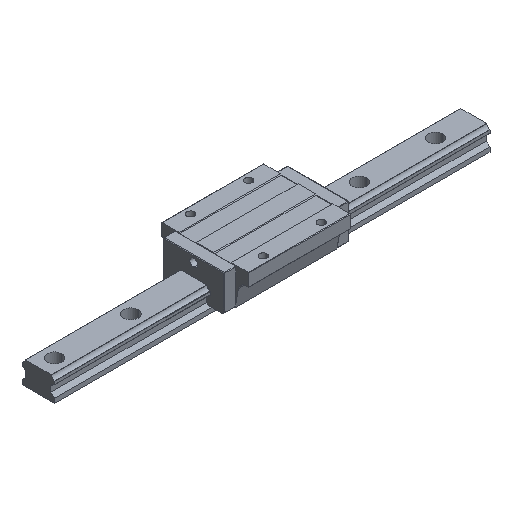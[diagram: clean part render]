
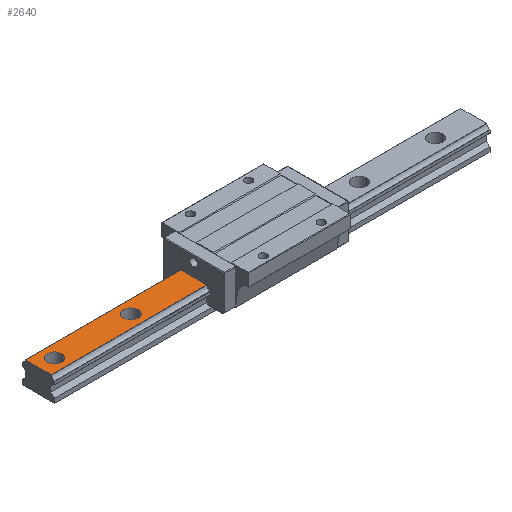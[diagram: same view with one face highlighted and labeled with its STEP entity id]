
A CAD part, isometric view. The second image highlights one B-rep face of the part: STEP entity #2640.
In plain terms, the highlighted planar face has unit normal (0, 0, 1).
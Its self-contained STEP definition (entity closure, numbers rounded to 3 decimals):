
#125 = EDGE_CURVE ( 'NONE', #1370, #3330, #2268, .T. ) ;
#241 = VECTOR ( 'NONE', #3045, 1000. ) ;
#251 = CARTESIAN_POINT ( 'NONE',  ( 300., -17.738, 32. ) ) ;
#325 = CARTESIAN_POINT ( 'NONE',  ( -172.5, 0., 32. ) ) ;
#520 = DIRECTION ( 'NONE',  ( -1., 0., 0. ) ) ;
#795 = VECTOR ( 'NONE', #1191, 1000. ) ;
#970 = CARTESIAN_POINT ( 'NONE',  ( -172.5, 0., 32. ) ) ;
#1160 = LINE ( 'NONE', #3654, #795 ) ;
#1191 = DIRECTION ( 'NONE',  ( 0., -1., 0. ) ) ;
#1192 = DIRECTION ( 'NONE',  ( 1., 0., 0. ) ) ;
#1370 = VERTEX_POINT ( 'NONE', #2221 ) ;
#1421 = EDGE_CURVE ( 'NONE', #4458, #2438, #1160, .T. ) ;
#1479 = VECTOR ( 'NONE', #1192, 1000. ) ;
#1514 = CARTESIAN_POINT ( 'NONE',  ( -162.5, 0., 32. ) ) ;
#1519 = CARTESIAN_POINT ( 'NONE',  ( -277.5, 0., 32. ) ) ;
#1611 = CARTESIAN_POINT ( 'NONE',  ( -287.5, 0., 32. ) ) ;
#1665 = EDGE_CURVE ( 'NONE', #3925, #4458, #5146, .T. ) ;
#1903 = VERTEX_POINT ( 'NONE', #1611 ) ;
#1919 = EDGE_LOOP ( 'NONE', ( #5201, #5696, #5321, #6178 ) ) ;
#2173 = DIRECTION ( 'NONE',  ( -1., 0., 0. ) ) ;
#2221 = CARTESIAN_POINT ( 'NONE',  ( -182.5, 0., 32. ) ) ;
#2235 = FACE_OUTER_BOUND ( 'NONE', #1919, .T. ) ;
#2268 = CIRCLE ( 'NONE', #5891, 10. ) ;
#2309 = ORIENTED_EDGE ( 'NONE', *, *, #125, .T. ) ;
#2328 = CARTESIAN_POINT ( 'NONE',  ( 300., 0., 32. ) ) ;
#2358 = AXIS2_PLACEMENT_3D ( 'NONE', #325, #4277, #5761 ) ;
#2438 = VERTEX_POINT ( 'NONE', #5504 ) ;
#2639 = DIRECTION ( 'NONE',  ( 0., 0., -1. ) ) ;
#2640 = ADVANCED_FACE ( 'NONE', ( #3344, #6184, #2235 ), #4695, .F. ) ;
#2676 = LINE ( 'NONE', #251, #1479 ) ;
#2740 = EDGE_CURVE ( 'NONE', #3330, #1370, #4019, .T. ) ;
#2752 = DIRECTION ( 'NONE',  ( 0., -1., 0. ) ) ;
#2983 = AXIS2_PLACEMENT_3D ( 'NONE', #2328, #4304, #2752 ) ;
#3045 = DIRECTION ( 'NONE',  ( 0., -1., 0. ) ) ;
#3330 = VERTEX_POINT ( 'NONE', #1514 ) ;
#3344 = FACE_BOUND ( 'NONE', #6193, .T. ) ;
#3406 = EDGE_CURVE ( 'NONE', #1903, #6332, #4704, .T. ) ;
#3489 = DIRECTION ( 'NONE',  ( -1., 0., 0. ) ) ;
#3515 = AXIS2_PLACEMENT_3D ( 'NONE', #1519, #4589, #520 ) ;
#3654 = CARTESIAN_POINT ( 'NONE',  ( -300., 0., 32. ) ) ;
#3899 = ORIENTED_EDGE ( 'NONE', *, *, #3406, .T. ) ;
#3925 = VERTEX_POINT ( 'NONE', #4063 ) ;
#4019 = CIRCLE ( 'NONE', #2358, 10. ) ;
#4053 = ORIENTED_EDGE ( 'NONE', *, *, #5960, .T. ) ;
#4063 = CARTESIAN_POINT ( 'NONE',  ( -85.7, 17.738, 32. ) ) ;
#4277 = DIRECTION ( 'NONE',  ( 0., 0., -1. ) ) ;
#4304 = DIRECTION ( 'NONE',  ( 0., 0., -1. ) ) ;
#4323 = ORIENTED_EDGE ( 'NONE', *, *, #2740, .T. ) ;
#4458 = VERTEX_POINT ( 'NONE', #4751 ) ;
#4472 = CARTESIAN_POINT ( 'NONE',  ( -267.5, 0., 32. ) ) ;
#4589 = DIRECTION ( 'NONE',  ( 0., 0., -1. ) ) ;
#4598 = EDGE_CURVE ( 'NONE', #3925, #6056, #5064, .T. ) ;
#4636 = EDGE_LOOP ( 'NONE', ( #4323, #2309 ) ) ;
#4695 = PLANE ( 'NONE',  #2983 ) ;
#4704 = CIRCLE ( 'NONE', #4802, 10. ) ;
#4751 = CARTESIAN_POINT ( 'NONE',  ( -300., 17.738, 32. ) ) ;
#4802 = AXIS2_PLACEMENT_3D ( 'NONE', #6038, #2639, #5984 ) ;
#5064 = LINE ( 'NONE', #5093, #241 ) ;
#5093 = CARTESIAN_POINT ( 'NONE',  ( -85.7, -17.738, 32. ) ) ;
#5146 = LINE ( 'NONE', #6121, #5971 ) ;
#5201 = ORIENTED_EDGE ( 'NONE', *, *, #4598, .F. ) ;
#5321 = ORIENTED_EDGE ( 'NONE', *, *, #1421, .T. ) ;
#5504 = CARTESIAN_POINT ( 'NONE',  ( -300., -17.738, 32. ) ) ;
#5696 = ORIENTED_EDGE ( 'NONE', *, *, #1665, .T. ) ;
#5761 = DIRECTION ( 'NONE',  ( -1., 0., 0. ) ) ;
#5891 = AXIS2_PLACEMENT_3D ( 'NONE', #970, #5917, #3489 ) ;
#5917 = DIRECTION ( 'NONE',  ( 0., 0., -1. ) ) ;
#5960 = EDGE_CURVE ( 'NONE', #6332, #1903, #6301, .T. ) ;
#5971 = VECTOR ( 'NONE', #2173, 1000. ) ;
#5984 = DIRECTION ( 'NONE',  ( -1., 0., 0. ) ) ;
#6038 = CARTESIAN_POINT ( 'NONE',  ( -277.5, 0., 32. ) ) ;
#6056 = VERTEX_POINT ( 'NONE', #6239 ) ;
#6121 = CARTESIAN_POINT ( 'NONE',  ( 300., 17.738, 32. ) ) ;
#6168 = EDGE_CURVE ( 'NONE', #2438, #6056, #2676, .T. ) ;
#6178 = ORIENTED_EDGE ( 'NONE', *, *, #6168, .T. ) ;
#6184 = FACE_BOUND ( 'NONE', #4636, .T. ) ;
#6193 = EDGE_LOOP ( 'NONE', ( #4053, #3899 ) ) ;
#6239 = CARTESIAN_POINT ( 'NONE',  ( -85.7, -17.738, 32. ) ) ;
#6301 = CIRCLE ( 'NONE', #3515, 10. ) ;
#6332 = VERTEX_POINT ( 'NONE', #4472 ) ;
